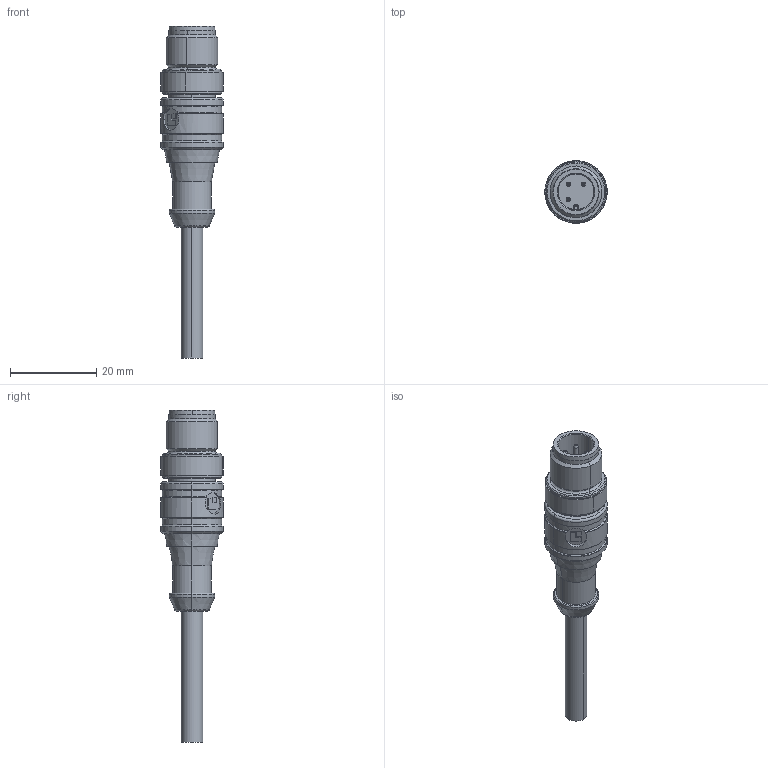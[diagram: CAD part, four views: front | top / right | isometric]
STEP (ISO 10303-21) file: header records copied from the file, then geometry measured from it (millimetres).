
FILE_DESCRIPTION(('Creo Elements/Direct Modeling STEP Export'),'2;1');
FILE_NAME('C:/Data/JobServerData/JobServer Files/e5f3df90-5229-4395-8731-084caf813943/work/output/model.stp','2018-04-11T10:01:03',(''),(''),'PTC Creo Elements/Direct Modeling STEP processor for AP214 (Solid Model)','PTC Creo Elements/Direct Modeling 19.0B 21-Mar-2015 (C) Parametric Technology GmbH','');
FILE_SCHEMA(('AUTOMOTIVE_DESIGN { 1 0 10303 214 1 1 1 1 }'));
Length unit declared in the file: millimetre
Products named in the file (1): 1210_03
Bounding box: 14.5 x 14.5 x 77 mm (x, y, z)
Volume: 5488.7 mm3; surface area: 2993.4 mm2
Topology: 1 solids, 1 shells, 151 faces, 367 edges, 238 vertices
Faces by surface type: cylinder 53, plane 49, cone 28, torus 21
Entity records: 5361 total; most frequent: CARTESIAN_POINT 1478, ORIENTED_EDGE 734, DIRECTION 676, EDGE_CURVE 367, AXIS2_PLACEMENT_3D 263, VERTEX_POINT 238, EDGE_LOOP 171, FACE_OUTER_BOUND 151
